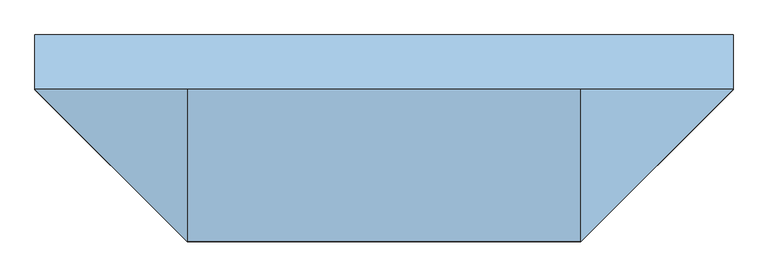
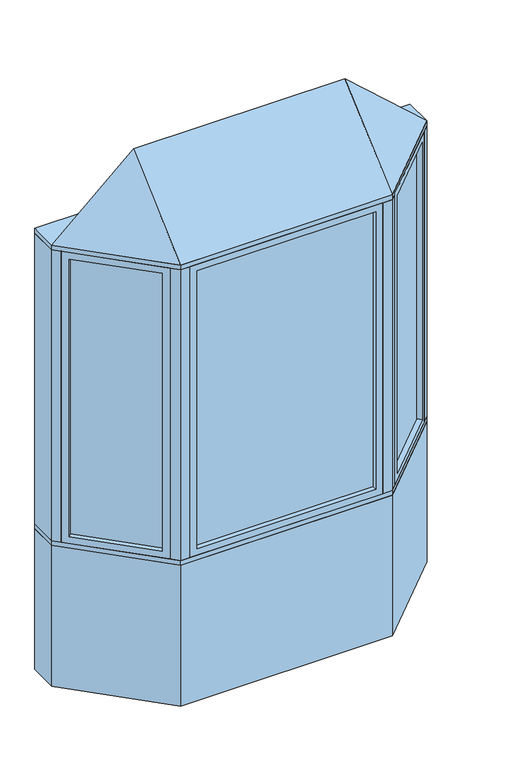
"""IFC4 building model written with IfcOpenShell, lengths in millimetres: window geometry, Pollard_Windows_Tudor Casement Bows and Bays : AML-BAY 45 AFR0616-08-500."""

from ifc_helpers import new_model, si_unit, frame, origin, origin_with_axes, place, context, project, spatial, polyline, outline, extrude, faceted_brep, source, transform, mapped, element, save


def window_10bc7acf(model_context):
    return source(origin(), model_context, "Body", "SolidModel", [
        extrude(outline(polyline([(910.5964271, -104.763169), (584.824814, -430.5347822), (581.2327115, -426.9426797), (907.0043247, -101.1710666), (910.5964271, -104.763169)])), frame((0.0, 0.0, 823.1628), z_axis=(0.0, 0.0, 1.0), x_axis=(1.0, 0.0, 0.0)), (0.0, 0.0, 1.0), 1553.6704),
        faceted_brep([(901.616171, -113.7434252, 835.8628), (919.5766833, -131.7039374, 835.8628), (919.5766833, -131.7039374, 2364.1332), (901.616171, -113.7434252, 2364.1332), (907.0043247, -101.1710666, 823.1628), (910.5964271, -104.763169, 823.1628), (910.5964271, -104.763169, 2376.8332), (907.0043247, -101.1710666, 2376.8332), (880.0635563, -92.1908105, 835.8628), (898.0240686, -110.1513227, 835.8628), (898.0240686, -110.1513227, 2364.1332), (880.0635563, -92.1908105, 2364.1332), (944.9369265, -106.3436941, 799.998), (905.4237996, -66.8305672, 799.998), (905.4237996, -66.8305672, 2399.998), (944.9369265, -106.3436941, 2399.998), (611.7655823, -439.5150383, 2364.1332), (593.8050701, -421.5545261, 2364.1332), (584.824814, -430.5347822, 2376.8332), (581.2327115, -426.9426797, 2376.8332), (590.2129677, -417.9624236, 2364.1332), (572.2524554, -400.0019114, 2364.1332), (546.8922121, -425.3621547, 2399.998), (586.4053391, -464.8752816, 2399.998), (611.7655823, -439.5150383, 835.8628), (593.8050701, -421.5545261, 835.8628), (584.824814, -430.5347822, 823.1628), (581.2327115, -426.9426797, 823.1628), (590.2129677, -417.9624236, 835.8628), (572.2524554, -400.0019114, 835.8628), (546.8922121, -425.3621547, 799.998), (586.4053391, -464.8752816, 799.998)], [[[0, 1, 2, 3]], [[4, 5, 6, 7]], [[8, 9, 10, 11]], [[12, 13, 14, 15]], [[3, 2, 16, 17]], [[7, 6, 18, 19]], [[11, 10, 20, 21]], [[15, 14, 22, 23]], [[17, 16, 24, 25]], [[19, 18, 26, 27]], [[21, 20, 28, 29]], [[23, 22, 30, 31]], [[25, 24, 1, 0]], [[5, 26, 18, 6], [3, 17, 25, 0]], [[27, 26, 5, 4]], [[7, 19, 27, 4], [9, 28, 20, 10]], [[29, 28, 9, 8]], [[13, 30, 22, 14], [11, 21, 29, 8]], [[31, 30, 13, 12]], [[15, 23, 31, 12], [1, 24, 16, 2]]]),
        extrude(outline(polyline([(-584.824814, -430.5347822), (-910.5964271, -104.763169), (-907.0043247, -101.1710666), (-581.2327115, -426.9426797), (-584.824814, -430.5347822)])), frame((0.0, 0.0, 823.1628), z_axis=(0.0, 0.0, 1.0), x_axis=(1.0, 0.0, 0.0)), (0.0, 0.0, 1.0), 1553.6704),
        faceted_brep([(-590.2129677, -417.9624236, 2364.1332), (-572.2524554, -400.0019114, 2364.1332), (-572.2524554, -400.0019114, 835.8628), (-590.2129677, -417.9624236, 835.8628), (-584.824814, -430.5347822, 2376.8332), (-581.2327115, -426.9426797, 2376.8332), (-581.2327115, -426.9426797, 823.1628), (-584.824814, -430.5347822, 823.1628), (-611.7655823, -439.5150383, 2364.1332), (-593.8050701, -421.5545261, 2364.1332), (-593.8050701, -421.5545261, 835.8628), (-611.7655823, -439.5150383, 835.8628), (-546.8922121, -425.3621547, 2399.998), (-586.4053391, -464.8752816, 2399.998), (-586.4053391, -464.8752816, 799.998), (-546.8922121, -425.3621547, 799.998), (-880.0635563, -92.1908105, 835.8628), (-898.0240686, -110.1513227, 835.8628), (-907.0043247, -101.1710666, 823.1628), (-910.5964271, -104.763169, 823.1628), (-901.616171, -113.7434252, 835.8628), (-919.5766833, -131.7039374, 835.8628), (-944.9369265, -106.3436941, 799.998), (-905.4237996, -66.8305672, 799.998), (-880.0635563, -92.1908105, 2364.1332), (-898.0240686, -110.1513227, 2364.1332), (-907.0043247, -101.1710666, 2376.8332), (-910.5964271, -104.763169, 2376.8332), (-901.616171, -113.7434252, 2364.1332), (-919.5766833, -131.7039374, 2364.1332), (-944.9369265, -106.3436941, 2399.998), (-905.4237996, -66.8305672, 2399.998)], [[[0, 1, 2, 3]], [[4, 5, 6, 7]], [[8, 9, 10, 11]], [[12, 13, 14, 15]], [[3, 2, 16, 17]], [[7, 6, 18, 19]], [[11, 10, 20, 21]], [[15, 14, 22, 23]], [[17, 16, 24, 25]], [[19, 18, 26, 27]], [[21, 20, 28, 29]], [[23, 22, 30, 31]], [[15, 23, 31, 12], [1, 24, 16, 2]], [[25, 24, 1, 0]], [[5, 26, 18, 6], [3, 17, 25, 0]], [[27, 26, 5, 4]], [[7, 19, 27, 4], [9, 28, 20, 10]], [[29, 28, 9, 8]], [[13, 30, 22, 14], [11, 21, 29, 8]], [[31, 30, 13, 12]]]),
        extrude(outline(polyline([(477.8852, -474.8306207), (-477.8852, -474.8306207), (-477.8852, -469.7506207), (477.8852, -469.7506207), (477.8852, -474.8306207)])), frame((0.0, 0.0, 823.1628), z_axis=(0.0, 0.0, 1.0), x_axis=(1.0, 0.0, 0.0)), (0.0, 0.0, 1.0), 1553.6704),
        faceted_brep([(465.1852, -474.8306207, 835.8628), (465.1852, -500.2306207, 835.8628), (465.1852, -500.2306207, 2364.1332), (465.1852, -474.8306207, 2364.1332), (477.8852, -469.7506207, 823.1628), (477.8852, -474.8306207, 823.1628), (477.8852, -474.8306207, 2376.8332), (477.8852, -469.7506207, 2376.8332), (465.1852, -444.3506207, 835.8628), (465.1852, -469.7506207, 835.8628), (465.1852, -469.7506207, 2364.1332), (465.1852, -444.3506207, 2364.1332), (501.05, -500.2306207, 799.998), (501.05, -444.3506207, 799.998), (501.05, -444.3506207, 2399.998), (501.05, -500.2306207, 2399.998), (-465.1852, -500.2306207, 2364.1332), (-465.1852, -474.8306207, 2364.1332), (-477.8852, -474.8306207, 2376.8332), (-477.8852, -469.7506207, 2376.8332), (-465.1852, -469.7506207, 2364.1332), (-465.1852, -444.3506207, 2364.1332), (-501.05, -444.3506207, 2399.998), (-501.05, -500.2306207, 2399.998), (-465.1852, -500.2306207, 835.8628), (-465.1852, -474.8306207, 835.8628), (-477.8852, -474.8306207, 823.1628), (-477.8852, -469.7506207, 823.1628), (-465.1852, -469.7506207, 835.8628), (-465.1852, -444.3506207, 835.8628), (-501.05, -444.3506207, 799.998), (-501.05, -500.2306207, 799.998)], [[[0, 1, 2, 3]], [[4, 5, 6, 7]], [[8, 9, 10, 11]], [[12, 13, 14, 15]], [[3, 2, 16, 17]], [[7, 6, 18, 19]], [[11, 10, 20, 21]], [[15, 14, 22, 23]], [[17, 16, 24, 25]], [[19, 18, 26, 27]], [[21, 20, 28, 29]], [[23, 22, 30, 31]], [[15, 23, 31, 12], [1, 24, 16, 2]], [[25, 24, 1, 0]], [[5, 26, 18, 6], [3, 17, 25, 0]], [[27, 26, 5, 4]], [[7, 19, 27, 4], [9, 28, 20, 10]], [[29, 28, 9, 8]], [[13, 30, 22, 14], [11, 21, 29, 8]], [[31, 30, 13, 12]]]),
        faceted_brep([(976.5, -74.7806207, 2425.398), (551.05, -500.2306207, 2425.398), (-551.05, -500.2306207, 2425.398), (-976.5, -74.7806207, 2425.398), (-551.05, -74.7806207, 2806.398), (551.05, -74.7806207, 2806.398)], [[[0, 1, 2, 3]], [[3, 2, 4]], [[2, 1, 5, 4]], [[1, 0, 5]], [[0, 3, 4, 5]]]),
        extrude(outline(polyline([(-976.5, 77.6193793), (976.5, 77.6193793), (976.5, -74.7806207), (551.05, -500.2306207), (-551.05, -500.2306207), (-976.5, -74.7806207), (-976.5, 77.6193793)])), frame((0.0, 0.0, 2399.998), z_axis=(0.0, 0.0, 1.0), x_axis=(1.0, 0.0, 0.0)), (0.0, 0.0, 1.0), 25.4),
        extrude(outline(polyline([(-976.5, -74.7806207), (-976.5, 77.6193793), (-913.3738531, 77.6193793), (-913.3738531, -74.7806207), (-944.9369265, -106.3436941), (-976.5, -74.7806207)])), frame((0.0, 0.0, 799.998), z_axis=(0.0, 0.0, 1.0), x_axis=(1.0, 0.0, 0.0)), (0.0, 0.0, 1.0), 1600.0),
        extrude(outline(polyline([(976.5, 77.6193793), (976.5, -74.7806207), (944.9369265, -106.3436941), (913.3738531, -74.7806207), (913.3738531, 77.6193793), (976.5, 77.6193793)])), frame((0.0, 0.0, 799.998), z_axis=(0.0, 0.0, 1.0), x_axis=(1.0, 0.0, 0.0)), (0.0, 0.0, 1.0), 1600.0),
        extrude(outline(polyline([(551.05, -500.2306207), (501.05, -500.2306207), (501.05, -450.2306207), (530.3393219, -450.2306207), (551.05, -429.5199425), (586.4053391, -464.8752816), (551.05, -500.2306207)])), frame((0.0, 0.0, 799.998), z_axis=(0.0, 0.0, 1.0), x_axis=(1.0, 0.0, 0.0)), (0.0, 0.0, 1.0), 1600.0),
        extrude(outline(polyline([(-551.05, -500.2306207), (-586.4053391, -464.8752816), (-551.05, -429.5199425), (-530.3393219, -450.2306207), (-501.05, -450.2306207), (-501.05, -500.2306207), (-551.05, -500.2306207)])), frame((0.0, 0.0, 799.998), z_axis=(0.0, 0.0, 1.0), x_axis=(1.0, 0.0, 0.0)), (0.0, 0.0, 1.0), 1600.0),
        extrude(outline(polyline([(-551.05, -500.2306207), (-976.5, -74.7806207), (-976.5, 77.6193793), (-913.3738531, 77.6193793), (-487.9238531, -347.8306207), (487.9238531, -347.8306207), (913.3738531, 77.6193793), (976.5, 77.6193793), (976.5, -74.7806207), (551.05, -500.2306207), (-551.05, -500.2306207)])), frame((0.0, 0.0, 774.598), z_axis=(0.0, 0.0, 1.0), x_axis=(1.0, 0.0, 0.0)), (0.0, 0.0, 1.0), 25.4),
        extrude(outline(polyline([(-976.5, -74.7806207), (-976.5, 77.6193793), (-913.3738531, 77.6193793), (-487.9238531, -347.8306207), (487.9238531, -347.8306207), (913.3738531, 77.6193793), (976.5, 77.6193793), (976.5, -74.7806207), (551.05, -500.2306207), (-551.05, -500.2306207), (-976.5, -74.7806207)])), origin_with_axes(), (0.0, 0.0, 1.0), 774.598),
    ])


if __name__ == "__main__":
    model = new_model("IFC4")
    model_context = context("Model", 3, world=origin())
    ifc_project = project(units=[si_unit("LENGTHUNIT", "METRE", prefix="MILLI")], contexts=[model_context])
    site = spatial("IfcSite", under=ifc_project)
    building = spatial("IfcBuilding", under=site)
    placement = place(None, origin())
    window_shape = window_10bc7acf(model_context)
    element("IfcWindow", 1, ObjectType="Pollard_Windows_Tudor Casement Bows and Bays : AML-BAY 45 AFR0616-08-500", at=placement, inside=building, context=model_context, shape_type="MappedRepresentation", body=[
        mapped(window_shape, transform((0.0, 0.0, 0.0), x_axis=(1.0, 0.0, 0.0), y_axis=(0.0, 1.0, 0.0), z_axis=(0.0, 0.0, 1.0))),
    ])
    save(model, "model.ifc")
